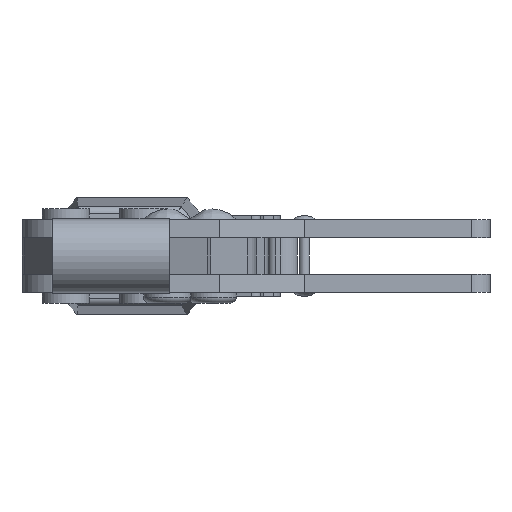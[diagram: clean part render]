
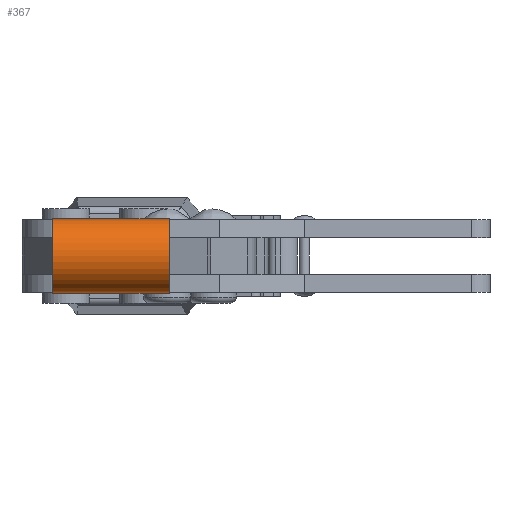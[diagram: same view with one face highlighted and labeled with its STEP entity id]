
A CAD part, left-side view. The second image highlights one B-rep face of the part: STEP entity #367.
In plain terms, the highlighted cylindrical face has radius 5.1 mm (diameter 10.2 mm), a partial arc.
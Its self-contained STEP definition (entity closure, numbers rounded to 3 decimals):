
#367 = ADVANCED_FACE( '', ( #695 ), #696, .T. );
#695 = FACE_OUTER_BOUND( '', #1307, .T. );
#696 = CYLINDRICAL_SURFACE( '', #1308, 5.1 );
#1307 = EDGE_LOOP( '', ( #2307, #2308, #2309, #2310 ) );
#1308 = AXIS2_PLACEMENT_3D( '', #2311, #2312, #2313 );
#2307 = ORIENTED_EDGE( '', *, *, #3410, .T. );
#2308 = ORIENTED_EDGE( '', *, *, #3431, .F. );
#2309 = ORIENTED_EDGE( '', *, *, #3386, .F. );
#2310 = ORIENTED_EDGE( '', *, *, #3422, .T. );
#2311 = CARTESIAN_POINT( '', ( -65.05, 15.74, 0. ) );
#2312 = DIRECTION( '', ( 0., 1., 0. ) );
#2313 = DIRECTION( '', ( 0., 0., -1. ) );
#3386 = EDGE_CURVE( '', #4018, #4020, #4021, .T. );
#3410 = EDGE_CURVE( '', #4060, #4061, #4062, .T. );
#3422 = EDGE_CURVE( '', #4018, #4060, #4080, .T. );
#3431 = EDGE_CURVE( '', #4020, #4061, #4095, .T. );
#4018 = VERTEX_POINT( '', #4990 );
#4020 = VERTEX_POINT( '', #4993 );
#4021 = CIRCLE( '', #4994, 5.1 );
#4060 = VERTEX_POINT( '', #5052 );
#4061 = VERTEX_POINT( '', #5053 );
#4062 = CIRCLE( '', #5054, 5.1 );
#4080 = LINE( '', #5082, #5083 );
#4095 = LINE( '', #5098, #5099 );
#4990 = CARTESIAN_POINT( '', ( -62.65, 15.74, -4.5 ) );
#4993 = CARTESIAN_POINT( '', ( -62.65, 15.74, 4.5 ) );
#4994 = AXIS2_PLACEMENT_3D( '', #6206, #6207, #6208 );
#5052 = CARTESIAN_POINT( '', ( -62.65, -0.26, -4.5 ) );
#5053 = CARTESIAN_POINT( '', ( -62.65, -0.26, 4.5 ) );
#5054 = AXIS2_PLACEMENT_3D( '', #6240, #6241, #6242 );
#5082 = CARTESIAN_POINT( '', ( -62.65, 15.74, -4.5 ) );
#5083 = VECTOR( '', #6256, 1000. );
#5098 = CARTESIAN_POINT( '', ( -62.65, 15.74, 4.5 ) );
#5099 = VECTOR( '', #6281, 1000. );
#6206 = CARTESIAN_POINT( '', ( -65.05, 15.74, 0. ) );
#6207 = DIRECTION( '', ( 0., 1., 0. ) );
#6208 = DIRECTION( '', ( 1., 0., 0. ) );
#6240 = CARTESIAN_POINT( '', ( -65.05, -0.26, 0. ) );
#6241 = DIRECTION( '', ( 0., 1., 0. ) );
#6242 = DIRECTION( '', ( 1., 0., 0. ) );
#6256 = DIRECTION( '', ( 0., -1., 0. ) );
#6281 = DIRECTION( '', ( 0., -1., 0. ) );
